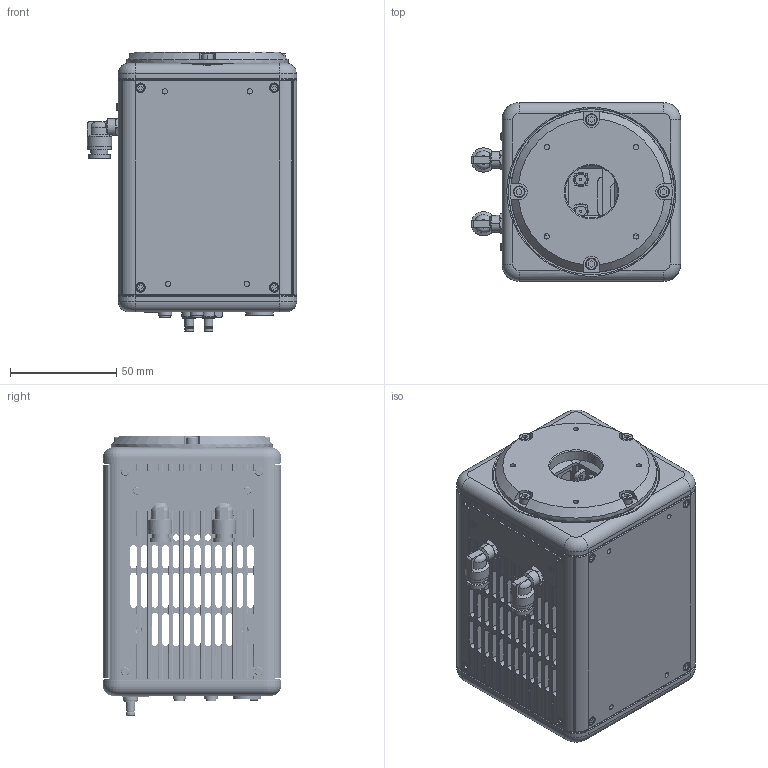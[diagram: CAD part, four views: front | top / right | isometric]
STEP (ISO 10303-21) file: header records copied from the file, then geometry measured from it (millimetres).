
FILE_DESCRIPTION (( 'STEP AP203' ), '1' );
FILE_NAME ('20200217__C15440-20UP_ORCA-FUSION_BT.STEP', '2020-02-17T01:00:21', ( '' ), ( '' ), 'SwSTEP 2.0', 'SolidWorks 2018', '' );
FILE_SCHEMA (( 'CONFIG_CONTROL_DESIGN' ));
Length unit declared in the file: millimetre
Products named in the file (1): 20200217__C15440-20UP_ORCA-FUSION_BT
Bounding box: 98.5 x 84.01 x 131.65 mm (x, y, z)
Volume: 185235.5 mm3; surface area: 165752.4 mm2
Topology: 158 solids, 158 shells, 5794 faces, 15254 edges, 9911 vertices
Faces by surface type: plane 3501, cylinder 1614, bspline 434, cone 166, torus 49, sphere 30
Entity records: 204249 total; most frequent: CARTESIAN_POINT 61820, ORIENTED_EDGE 30364, DIRECTION 27798, EDGE_CURVE 15182, VECTOR 10680, LINE 10680, VERTEX_POINT 9905, AXIS2_PLACEMENT_3D 8559
